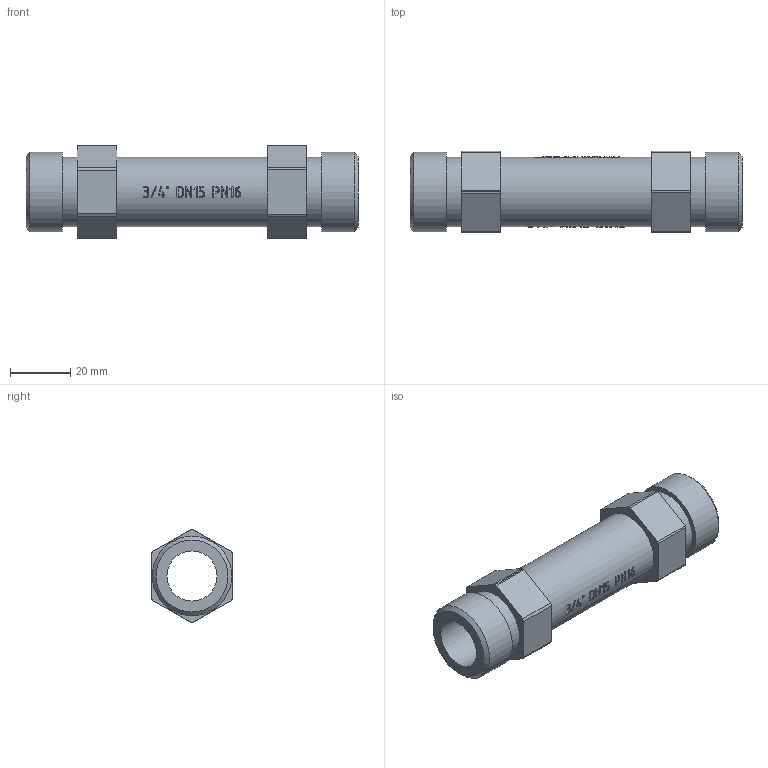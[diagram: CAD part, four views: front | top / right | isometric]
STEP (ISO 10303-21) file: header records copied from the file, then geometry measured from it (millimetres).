
FILE_DESCRIPTION(('TFLEX Exchange Step'),'2;1');
FILE_NAME('Repair insert VTp.789.110.04.stp', '2023-08-31T17:09:32+03:00',('denis'),('Unknown organisation'),'TFLEX Exchange 2023.0','T-FLEX CAD','Unknown authorisation');
FILE_SCHEMA( ('AUTOMOTIVE_DESIGN { 1 0 10303 214 1 1 1 1 }') );
Length unit declared in the file: millimetre
Products named in the file (1): Nodes
Bounding box: 110 x 27 x 30.8 mm (x, y, z)
Volume: 30530.1 mm3; surface area: 16167.6 mm2
Topology: 1 solids, 1 shells, 380 faces, 1042 edges, 695 vertices
Faces by surface type: bspline 163, plane 144, cylinder 71, cone 2
Full cylindrical faces by diameter (mm): 16.6 x1, 23 x3, 26.4 x2
Entity records: 15836 total; most frequent: CARTESIAN_POINT 7692, ORIENTED_EDGE 2084, EDGE_CURVE 1042, DIRECTION 998, VERTEX_POINT 695, B_SPLINE_CURVE_WITH_KNOTS 591, EDGE_LOOP 413, FACE_BOUND 413
